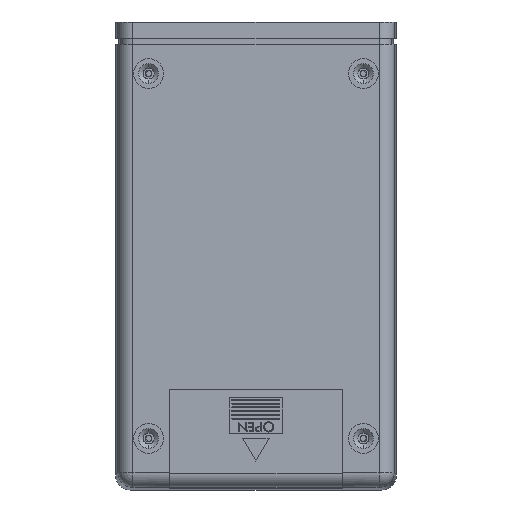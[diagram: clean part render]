
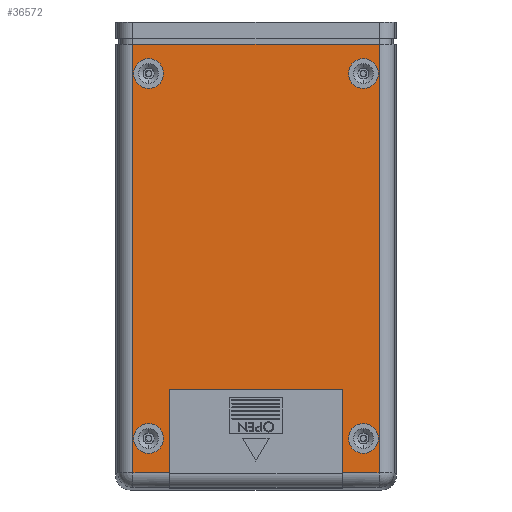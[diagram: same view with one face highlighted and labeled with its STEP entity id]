
A CAD part, front view. The second image highlights one B-rep face of the part: STEP entity #36572.
In plain terms, the highlighted planar face has unit normal (0, -1, 0).
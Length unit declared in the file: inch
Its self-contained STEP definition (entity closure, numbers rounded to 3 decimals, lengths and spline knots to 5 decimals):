
#67 = CARTESIAN_POINT ( 'NONE',  ( -1.4265, -0.655, 2.423 ) ) ;
#349 = VERTEX_POINT ( 'NONE', #27258 ) ;
#576 = DIRECTION ( 'NONE',  ( 0., 1., 0. ) ) ;
#902 = CIRCLE ( 'NONE', #25762, 0.198 ) ;
#959 = LINE ( 'NONE', #7959, #31153 ) ;
#1337 = CIRCLE ( 'NONE', #14203, 0.198 ) ;
#1522 = CARTESIAN_POINT ( 'NONE',  ( 1.63369, -0.655, 2.812 ) ) ;
#1535 = CARTESIAN_POINT ( 'NONE',  ( 1.8202, -0.655, -2.87519 ) ) ;
#1936 = CARTESIAN_POINT ( 'NONE',  ( 1.15, -0.655, -1.7775 ) ) ;
#2154 = AXIS2_PLACEMENT_3D ( 'NONE', #15593, #35763, #18592 ) ;
#2176 = DIRECTION ( 'NONE',  ( 0., 0., -1. ) ) ;
#2870 = LINE ( 'NONE', #1936, #17599 ) ;
#3177 = DIRECTION ( 'NONE',  ( 0., 0., -1. ) ) ;
#4304 = CARTESIAN_POINT ( 'NONE',  ( -1.63369, -0.655, 2.812 ) ) ;
#4542 = DIRECTION ( 'NONE',  ( 1., 0., 0. ) ) ;
#5442 = CARTESIAN_POINT ( 'NONE',  ( -1.4265, -0.655, -2.225 ) ) ;
#5489 = VERTEX_POINT ( 'NONE', #5689 ) ;
#5515 = VERTEX_POINT ( 'NONE', #5442 ) ;
#5689 = CARTESIAN_POINT ( 'NONE',  ( 1.4265, -0.655, -2.621 ) ) ;
#6923 = VECTOR ( 'NONE', #30283, 39.37008 ) ;
#6941 = CARTESIAN_POINT ( 'NONE',  ( 1.4265, -0.655, -2.423 ) ) ;
#7183 = DIRECTION ( 'NONE',  ( 0., 1., 0. ) ) ;
#7840 = LINE ( 'NONE', #4304, #6923 ) ;
#7959 = CARTESIAN_POINT ( 'NONE',  ( 1.63369, -0.655, 3.1075 ) ) ;
#8894 = FACE_BOUND ( 'NONE', #33882, .T. ) ;
#9792 = VECTOR ( 'NONE', #22703, 39.37008 ) ;
#9957 = DIRECTION ( 'NONE',  ( 0., 0., -1. ) ) ;
#10349 = CARTESIAN_POINT ( 'NONE',  ( -1.63369, -0.655, -3.0617 ) ) ;
#10671 = CIRCLE ( 'NONE', #2154, 0.198 ) ;
#10778 = DIRECTION ( 'NONE',  ( 0., 1., 0. ) ) ;
#11658 = VERTEX_POINT ( 'NONE', #25291 ) ;
#12180 = ORIENTED_EDGE ( 'NONE', *, *, #25006, .F. ) ;
#12369 = ORIENTED_EDGE ( 'NONE', *, *, #16695, .F. ) ;
#12910 = ORIENTED_EDGE ( 'NONE', *, *, #17014, .T. ) ;
#13043 = ORIENTED_EDGE ( 'NONE', *, *, #25052, .T. ) ;
#13108 = ORIENTED_EDGE ( 'NONE', *, *, #25055, .F. ) ;
#13295 = ORIENTED_EDGE ( 'NONE', *, *, #17975, .F. ) ;
#13667 = CARTESIAN_POINT ( 'NONE',  ( -1.15, -0.655, -1.7775 ) ) ;
#13741 = ORIENTED_EDGE ( 'NONE', *, *, #17362, .T. ) ;
#13767 = VERTEX_POINT ( 'NONE', #32393 ) ;
#13963 = ORIENTED_EDGE ( 'NONE', *, *, #25101, .T. ) ;
#14067 = ORIENTED_EDGE ( 'NONE', *, *, #25105, .F. ) ;
#14203 = AXIS2_PLACEMENT_3D ( 'NONE', #36978, #19834, #2176 ) ;
#14270 = ORIENTED_EDGE ( 'NONE', *, *, #25205, .T. ) ;
#14306 = ORIENTED_EDGE ( 'NONE', *, *, #25248, .T. ) ;
#14778 = VECTOR ( 'NONE', #33538, 39.37008 ) ;
#14813 = ORIENTED_EDGE ( 'NONE', *, *, #25253, .F. ) ;
#14929 = ORIENTED_EDGE ( 'NONE', *, *, #25301, .F. ) ;
#15003 = ORIENTED_EDGE ( 'NONE', *, *, #25362, .F. ) ;
#15163 = CARTESIAN_POINT ( 'NONE',  ( -1.63369, -0.655, -2.87519 ) ) ;
#15189 = ORIENTED_EDGE ( 'NONE', *, *, #25433, .T. ) ;
#15226 = ORIENTED_EDGE ( 'NONE', *, *, #25472, .T. ) ;
#15593 = CARTESIAN_POINT ( 'NONE',  ( -1.4265, -0.655, -2.423 ) ) ;
#15849 = CARTESIAN_POINT ( 'NONE',  ( -1.4265, -0.655, -2.621 ) ) ;
#15860 = CARTESIAN_POINT ( 'NONE',  ( -1.4265, -0.655, 2.423 ) ) ;
#16047 = CARTESIAN_POINT ( 'NONE',  ( -1.4265, -0.655, 2.621 ) ) ;
#16374 = DIRECTION ( 'NONE',  ( 0., 0., -1. ) ) ;
#16695 = EDGE_CURVE ( 'NONE', #5515, #35865, #35487, .T. ) ;
#16701 = AXIS2_PLACEMENT_3D ( 'NONE', #67, #20813, #3177 ) ;
#16761 = CARTESIAN_POINT ( 'NONE',  ( 1.8202, -0.655, -2.87519 ) ) ;
#16906 = DIRECTION ( 'NONE',  ( 0., -1., 0. ) ) ;
#17014 = EDGE_CURVE ( 'NONE', #5489, #11658, #17934, .T. ) ;
#17362 = EDGE_CURVE ( 'NONE', #13767, #28934, #1337, .T. ) ;
#17599 = VECTOR ( 'NONE', #36720, 39.37008 ) ;
#17934 = CIRCLE ( 'NONE', #18893, 0.198 ) ;
#17975 = EDGE_CURVE ( 'NONE', #30735, #25541, #19318, .T. ) ;
#18313 = CARTESIAN_POINT ( 'NONE',  ( 1.4265, -0.655, -2.423 ) ) ;
#18556 = VECTOR ( 'NONE', #31011, 39.37008 ) ;
#18592 = DIRECTION ( 'NONE',  ( 0., 0., -1. ) ) ;
#18761 = CARTESIAN_POINT ( 'NONE',  ( 1.15, -0.655, -2.87519 ) ) ;
#18821 = DIRECTION ( 'NONE',  ( 0., 0., -1. ) ) ;
#18893 = AXIS2_PLACEMENT_3D ( 'NONE', #18313, #576, #21291 ) ;
#19318 = CIRCLE ( 'NONE', #16701, 0.198 ) ;
#19834 = DIRECTION ( 'NONE',  ( 0., 1., 0. ) ) ;
#19862 = VECTOR ( 'NONE', #16374, 39.37008 ) ;
#19943 = AXIS2_PLACEMENT_3D ( 'NONE', #6941, #27432, #9957 ) ;
#20813 = DIRECTION ( 'NONE',  ( 0., -1., 0. ) ) ;
#21291 = DIRECTION ( 'NONE',  ( 0., 0., -1. ) ) ;
#21717 = LINE ( 'NONE', #1535, #35099 ) ;
#22703 = DIRECTION ( 'NONE',  ( 1., 0., 0. ) ) ;
#22749 = FACE_BOUND ( 'NONE', #34968, .T. ) ;
#22910 = CARTESIAN_POINT ( 'NONE',  ( -1.63369, -0.655, 2.812 ) ) ;
#23641 = FACE_BOUND ( 'NONE', #31655, .T. ) ;
#24456 = CARTESIAN_POINT ( 'NONE',  ( 1.63369, -0.655, -2.87519 ) ) ;
#24460 = CIRCLE ( 'NONE', #19943, 0.198 ) ;
#24841 = CARTESIAN_POINT ( 'NONE',  ( 1.4265, -0.655, 2.423 ) ) ;
#24966 = CARTESIAN_POINT ( 'NONE',  ( -1.15, -0.655, -1.7775 ) ) ;
#25006 = EDGE_CURVE ( 'NONE', #35865, #5515, #10671, .T. ) ;
#25052 = EDGE_CURVE ( 'NONE', #11658, #5489, #24460, .T. ) ;
#25055 = EDGE_CURVE ( 'NONE', #25541, #30735, #902, .T. ) ;
#25101 = EDGE_CURVE ( 'NONE', #28934, #13767, #30197, .T. ) ;
#25105 = EDGE_CURVE ( 'NONE', #34671, #35941, #7840, .T. ) ;
#25205 = EDGE_CURVE ( 'NONE', #34671, #34332, #35974, .T. ) ;
#25248 = EDGE_CURVE ( 'NONE', #34332, #34085, #21717, .T. ) ;
#25253 = EDGE_CURVE ( 'NONE', #36012, #34085, #28408, .T. ) ;
#25291 = CARTESIAN_POINT ( 'NONE',  ( 1.4265, -0.655, -2.225 ) ) ;
#25301 = EDGE_CURVE ( 'NONE', #349, #36012, #26262, .T. ) ;
#25313 = CARTESIAN_POINT ( 'NONE',  ( 1.15, -0.655, -1.7775 ) ) ;
#25362 = EDGE_CURVE ( 'NONE', #37543, #349, #2870, .T. ) ;
#25386 = LINE ( 'NONE', #16761, #9792 ) ;
#25433 = EDGE_CURVE ( 'NONE', #37543, #32555, #25386, .T. ) ;
#25444 = CARTESIAN_POINT ( 'NONE',  ( -1.15, -0.655, -2.87519 ) ) ;
#25472 = EDGE_CURVE ( 'NONE', #32555, #35941, #959, .T. ) ;
#25501 = PLANE ( 'NONE',  #26926 ) ;
#25541 = VERTEX_POINT ( 'NONE', #28752 ) ;
#25762 = AXIS2_PLACEMENT_3D ( 'NONE', #15860, #35992, #18821 ) ;
#26262 = LINE ( 'NONE', #25313, #18556 ) ;
#26926 = AXIS2_PLACEMENT_3D ( 'NONE', #28314, #10778, #31215 ) ;
#27258 = CARTESIAN_POINT ( 'NONE',  ( 1.15, -0.655, -1.7775 ) ) ;
#27432 = DIRECTION ( 'NONE',  ( 0., 1., 0. ) ) ;
#27680 = DIRECTION ( 'NONE',  ( 0., 0., -1. ) ) ;
#28314 = CARTESIAN_POINT ( 'NONE',  ( -1.866, -0.655, 3.1075 ) ) ;
#28408 = LINE ( 'NONE', #24966, #19862 ) ;
#28520 = DIRECTION ( 'NONE',  ( 0., 0., 1. ) ) ;
#28752 = CARTESIAN_POINT ( 'NONE',  ( -1.4265, -0.655, 2.225 ) ) ;
#28934 = VERTEX_POINT ( 'NONE', #33003 ) ;
#29259 = AXIS2_PLACEMENT_3D ( 'NONE', #34177, #16906, #37019 ) ;
#29562 = AXIS2_PLACEMENT_3D ( 'NONE', #24841, #7183, #27680 ) ;
#30197 = CIRCLE ( 'NONE', #29562, 0.198 ) ;
#30283 = DIRECTION ( 'NONE',  ( 1., 0., 0. ) ) ;
#30735 = VERTEX_POINT ( 'NONE', #16047 ) ;
#31011 = DIRECTION ( 'NONE',  ( -1., 0., 0. ) ) ;
#31153 = VECTOR ( 'NONE', #28520, 39.37008 ) ;
#31191 = FACE_BOUND ( 'NONE', #35214, .T. ) ;
#31215 = DIRECTION ( 'NONE',  ( 0., 0., 1. ) ) ;
#31655 = EDGE_LOOP ( 'NONE', ( #13741, #13963 ) ) ;
#32393 = CARTESIAN_POINT ( 'NONE',  ( 1.4265, -0.655, 2.225 ) ) ;
#32555 = VERTEX_POINT ( 'NONE', #24456 ) ;
#33003 = CARTESIAN_POINT ( 'NONE',  ( 1.4265, -0.655, 2.621 ) ) ;
#33538 = DIRECTION ( 'NONE',  ( 0., 0., -1. ) ) ;
#33882 = EDGE_LOOP ( 'NONE', ( #12180, #12369 ) ) ;
#34085 = VERTEX_POINT ( 'NONE', #25444 ) ;
#34177 = CARTESIAN_POINT ( 'NONE',  ( -1.4265, -0.655, -2.423 ) ) ;
#34332 = VERTEX_POINT ( 'NONE', #15163 ) ;
#34671 = VERTEX_POINT ( 'NONE', #22910 ) ;
#34968 = EDGE_LOOP ( 'NONE', ( #12910, #13043 ) ) ;
#35099 = VECTOR ( 'NONE', #4542, 39.37008 ) ;
#35214 = EDGE_LOOP ( 'NONE', ( #13108, #13295 ) ) ;
#35487 = CIRCLE ( 'NONE', #29259, 0.198 ) ;
#35763 = DIRECTION ( 'NONE',  ( 0., -1., 0. ) ) ;
#35865 = VERTEX_POINT ( 'NONE', #15849 ) ;
#35916 = EDGE_LOOP ( 'NONE', ( #14067, #14270, #14306, #14813, #14929, #15003, #15189, #15226 ) ) ;
#35941 = VERTEX_POINT ( 'NONE', #1522 ) ;
#35974 = LINE ( 'NONE', #10349, #14778 ) ;
#35992 = DIRECTION ( 'NONE',  ( 0., -1., 0. ) ) ;
#36012 = VERTEX_POINT ( 'NONE', #13667 ) ;
#36572 = ADVANCED_FACE ( 'NONE', ( #8894, #22749, #31191, #23641, #37855 ), #25501, .F. ) ;
#36720 = DIRECTION ( 'NONE',  ( 0., 0., 1. ) ) ;
#36978 = CARTESIAN_POINT ( 'NONE',  ( 1.4265, -0.655, 2.423 ) ) ;
#37019 = DIRECTION ( 'NONE',  ( 0., 0., -1. ) ) ;
#37543 = VERTEX_POINT ( 'NONE', #18761 ) ;
#37855 = FACE_OUTER_BOUND ( 'NONE', #35916, .T. ) ;
